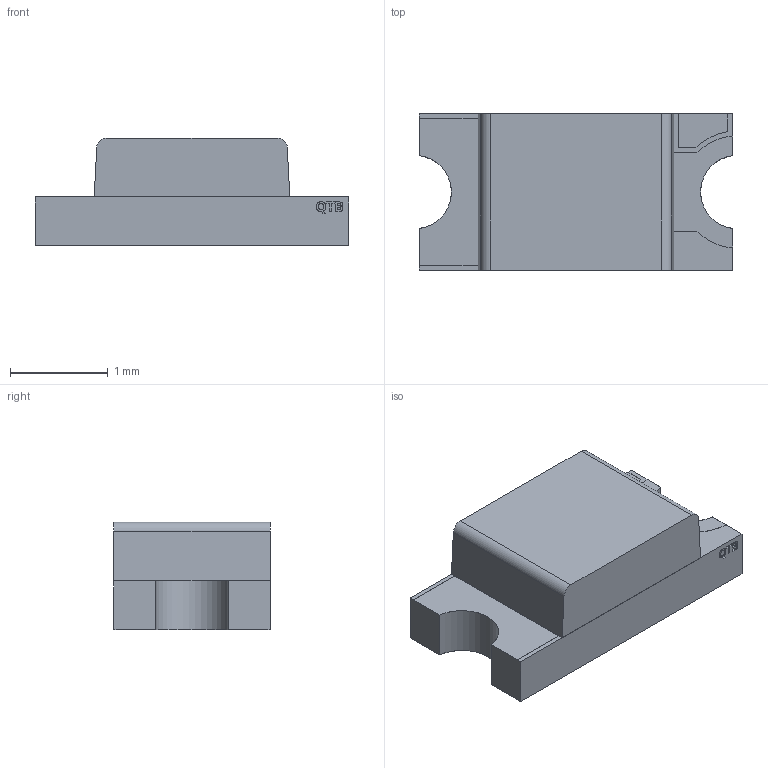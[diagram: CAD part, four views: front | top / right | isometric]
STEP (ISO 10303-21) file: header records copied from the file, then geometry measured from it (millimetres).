
FILE_DESCRIPTION(/* description */ (''),/* implementation_level */ '2;1');
FILE_NAME(/* name */ '5fab0c955ed59b0f42ef63a2',/* time_stamp */ '2020-11-10T21:56:38+00:00',/* author */ (''),/* organization */ (''),/* preprocessor_version */ 'ST-DEVELOPER v16.7',/* originating_system */ $,/* authorisation */ $);
FILE_SCHEMA (('AUTOMOTIVE_DESIGN {1 0 10303 214 3 1 1}'));
Length unit declared in the file: metre
Products named in the file (6): QBLP650; Part 4; Part 5; Part 2; Part 1; Part 3
Assembly tree (5 placements, depth 2):
  QBLP650
    Part 4
    Part 5
    Part 2
    Part 1
    Part 3
Bounding box: 3.2 x 1.6 x 1.1 mm (x, y, z)
Volume: 4.3 mm3; surface area: 32.6 mm2
Topology: 5 solids, 5 shells, 135 faces, 357 edges, 238 vertices
Faces by surface type: plane 92, bspline 29, cylinder 14
Entity records: 4391 total; most frequent: CARTESIAN_POINT 1055, ORIENTED_EDGE 714, DIRECTION 551, EDGE_CURVE 357, LINE 271, VECTOR 271, VERTEX_POINT 238, EDGE_LOOP 141
